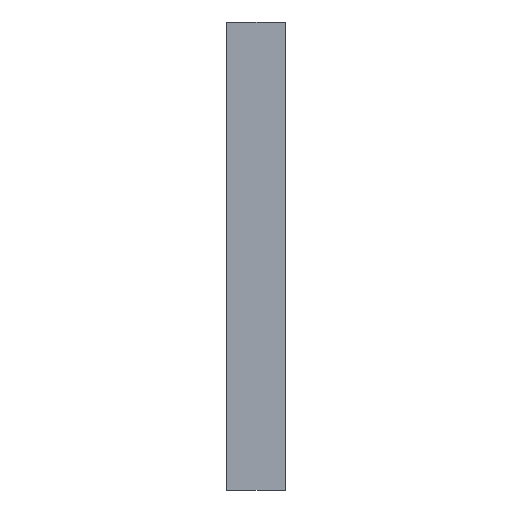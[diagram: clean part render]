
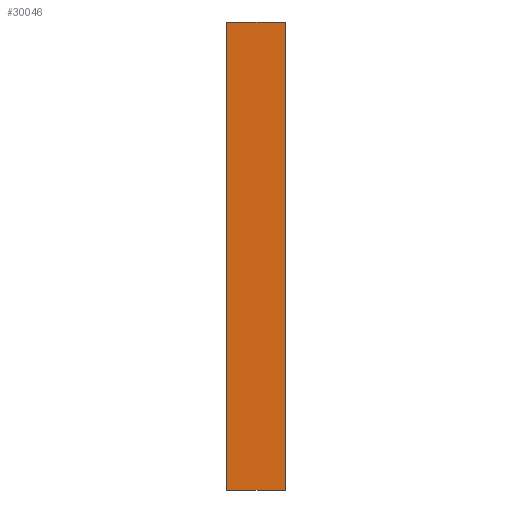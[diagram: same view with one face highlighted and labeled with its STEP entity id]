
A CAD part, left-side view. The second image highlights one B-rep face of the part: STEP entity #30046.
In plain terms, the highlighted planar face has unit normal (-1, 0, 0).
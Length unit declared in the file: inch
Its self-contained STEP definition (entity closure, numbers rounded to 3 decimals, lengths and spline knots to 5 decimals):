
#2092 = EDGE_CURVE ( 'NONE', #12014, #13449, #26489, .T. ) ;
#2117 = CARTESIAN_POINT ( 'NONE',  ( -11.58219, 31.90316, -9.04987 ) ) ;
#2428 = ORIENTED_EDGE ( 'NONE', *, *, #25103, .T. ) ;
#3558 = DIRECTION ( 'NONE',  ( 0., 0., -1. ) ) ;
#5063 = ORIENTED_EDGE ( 'NONE', *, *, #22820, .F. ) ;
#5162 = LINE ( 'NONE', #22838, #22677 ) ;
#5809 = CARTESIAN_POINT ( 'NONE',  ( -11.58219, 0., -9.04987 ) ) ;
#6501 = AXIS2_PLACEMENT_3D ( 'NONE', #2117, #14282, #13736 ) ;
#6619 = CARTESIAN_POINT ( 'NONE',  ( -11.58219, 2.25606, 9.04987 ) ) ;
#7113 = DIRECTION ( 'NONE',  ( 0., -1., 0. ) ) ;
#7315 = ORIENTED_EDGE ( 'NONE', *, *, #2092, .T. ) ;
#7747 = CARTESIAN_POINT ( 'NONE',  ( -11.58219, 0., 9.04987 ) ) ;
#8266 = FACE_OUTER_BOUND ( 'NONE', #33292, .T. ) ;
#10963 = CARTESIAN_POINT ( 'NONE',  ( -11.58219, 0., -9.04987 ) ) ;
#12014 = VERTEX_POINT ( 'NONE', #24549 ) ;
#13263 = EDGE_CURVE ( 'NONE', #15315, #13449, #28916, .T. ) ;
#13287 = CARTESIAN_POINT ( 'NONE',  ( -11.58219, 31.90316, 9.04987 ) ) ;
#13449 = VERTEX_POINT ( 'NONE', #10963 ) ;
#13736 = DIRECTION ( 'NONE',  ( 0., 0., 1. ) ) ;
#14201 = VECTOR ( 'NONE', #36105, 39.37008 ) ;
#14282 = DIRECTION ( 'NONE',  ( -1., 0., 0. ) ) ;
#14987 = VERTEX_POINT ( 'NONE', #6619 ) ;
#15054 = LINE ( 'NONE', #13287, #32864 ) ;
#15315 = VERTEX_POINT ( 'NONE', #7747 ) ;
#16622 = DIRECTION ( 'NONE',  ( 0., 0., -1. ) ) ;
#17868 = VECTOR ( 'NONE', #3558, 39.37008 ) ;
#19534 = PLANE ( 'NONE',  #6501 ) ;
#21762 = CARTESIAN_POINT ( 'NONE',  ( -11.58219, 31.90316, -9.04987 ) ) ;
#22677 = VECTOR ( 'NONE', #16622, 39.37008 ) ;
#22820 = EDGE_CURVE ( 'NONE', #14987, #15315, #15054, .T. ) ;
#22838 = CARTESIAN_POINT ( 'NONE',  ( -11.58219, 2.25606, -9.04987 ) ) ;
#24549 = CARTESIAN_POINT ( 'NONE',  ( -11.58219, 2.25606, -9.04987 ) ) ;
#25103 = EDGE_CURVE ( 'NONE', #14987, #12014, #5162, .T. ) ;
#26489 = LINE ( 'NONE', #21762, #14201 ) ;
#28776 = ORIENTED_EDGE ( 'NONE', *, *, #13263, .F. ) ;
#28916 = LINE ( 'NONE', #5809, #17868 ) ;
#30046 = ADVANCED_FACE ( 'NONE', ( #8266 ), #19534, .T. ) ;
#32864 = VECTOR ( 'NONE', #7113, 39.37008 ) ;
#33292 = EDGE_LOOP ( 'NONE', ( #5063, #2428, #7315, #28776 ) ) ;
#36105 = DIRECTION ( 'NONE',  ( 0., -1., 0. ) ) ;
